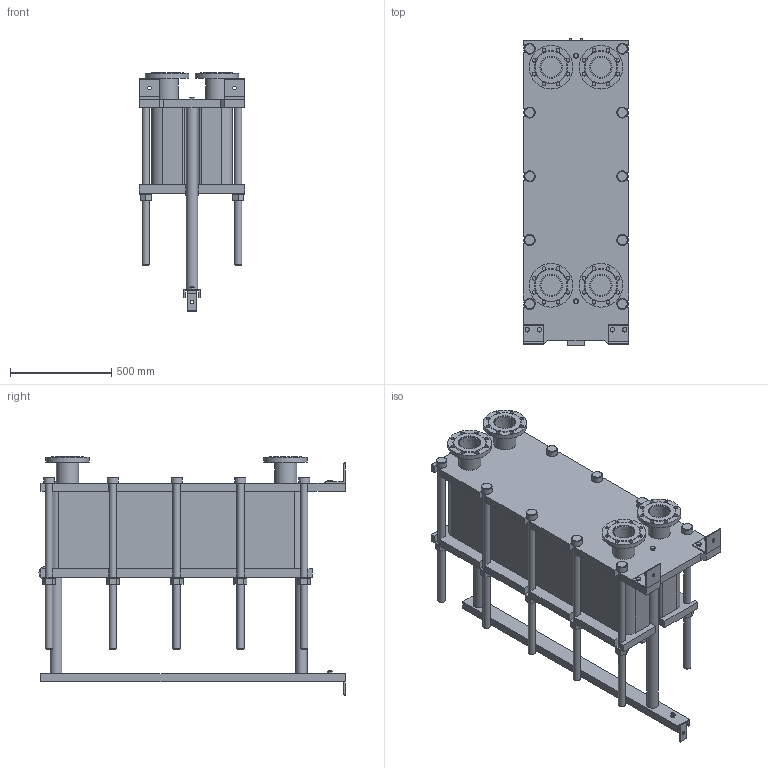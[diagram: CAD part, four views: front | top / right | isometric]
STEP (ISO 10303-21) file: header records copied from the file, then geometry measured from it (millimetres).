
FILE_DESCRIPTION(/* description */ (''),/* implementation_level */ '2;1');
FILE_NAME(/* name */ 'C:\Users\zhuro\Desktop\ENCO\TO\ЭН-04\ЭН-0,5-04-111-1.stp',/* time_stamp */ '2022-06-06T10:55:12+03:00',/* author */ ('zhuro'),/* organization */ (''),/* preprocessor_version */ 'ST-DEVELOPER v18.1',/* originating_system */ 'Autodesk Inventor 2022',/* authorisation */ '');
FILE_SCHEMA (('AUTOMOTIVE_DESIGN { 1 0 10303 214 3 1 1 }'));
Length unit declared in the file: millimetre
Products named in the file (1): ЭН-0,5-04-111-1
Bounding box: 520 x 1510 x 1175.5 mm (x, y, z)
Volume: 263179582.6 mm3; surface area: 8597153 mm2
Topology: 45 solids, 45 shells, 668 faces, 1611 edges, 1048 vertices
Faces by surface type: plane 457, cylinder 166, cone 39, torus 6
Full cylindrical faces by diameter (mm): 8 x4, 10 x2, 16 x8, 18 x35, 36 x25, 40 x2, 42 x1, 45 x4, 54 x10, 57 x2, 60 x10, 68 x2, 100 x4, 110 x8, 215 x4
Entity records: 23607 total; most frequent: CARTESIAN_POINT 7348, DIRECTION 3371, ORIENTED_EDGE 3142, EDGE_CURVE 1571, AXIS2_PLACEMENT_3D 1199, VERTEX_POINT 1044, LINE 973, VECTOR 973
